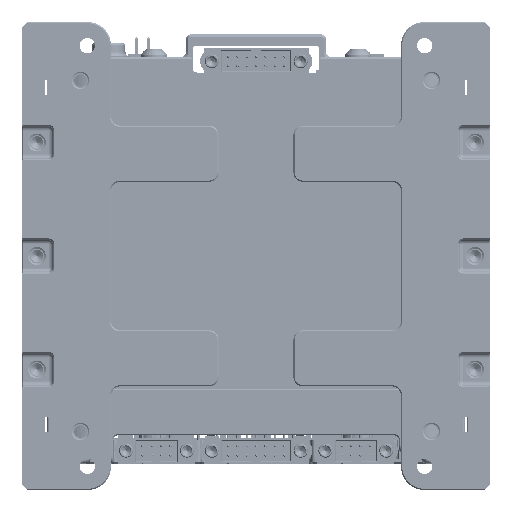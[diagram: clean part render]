
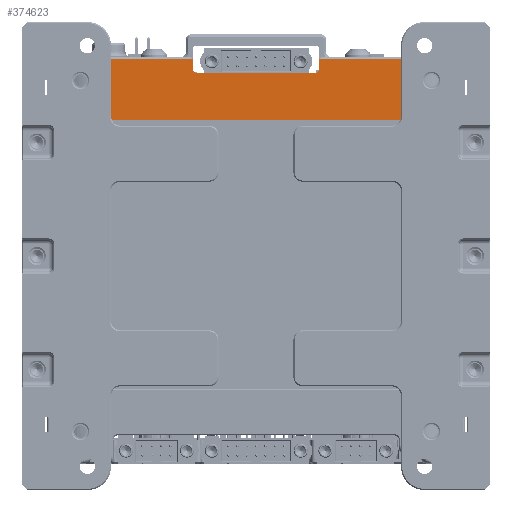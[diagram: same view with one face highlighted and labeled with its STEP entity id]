
A CAD part, left-side view. The second image highlights one B-rep face of the part: STEP entity #374623.
In plain terms, the highlighted planar face has unit normal (-1, 0, 0).
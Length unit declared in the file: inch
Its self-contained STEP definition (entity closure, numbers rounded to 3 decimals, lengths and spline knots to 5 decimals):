
#4908 = CARTESIAN_POINT ( 'NONE',  ( -4.28073, -1.36417, 0.23708 ) ) ;
#9906 = DIRECTION ( 'NONE',  ( 0., 1., 0. ) ) ;
#15910 = ORIENTED_EDGE ( 'NONE', *, *, #419023, .F. ) ;
#16358 = EDGE_CURVE ( 'NONE', #390400, #351510, #76897, .T. ) ;
#21092 = EDGE_CURVE ( 'NONE', #244668, #67279, #90600, .T. ) ;
#24571 = DIRECTION ( 'NONE',  ( 0., -1., 0. ) ) ;
#24925 = CARTESIAN_POINT ( 'NONE',  ( -4.28073, 1.36417, 0.23708 ) ) ;
#28509 = VERTEX_POINT ( 'NONE', #367182 ) ;
#29312 = CARTESIAN_POINT ( 'NONE',  ( -4.28073, -0.5315, 0.67015 ) ) ;
#29510 = LINE ( 'NONE', #388709, #219353 ) ;
#31132 = DIRECTION ( 'NONE',  ( 1., 0., 0. ) ) ;
#32323 = CARTESIAN_POINT ( 'NONE',  ( -4.28073, -1.4188, 0.8588 ) ) ;
#32404 = CARTESIAN_POINT ( 'NONE',  ( -4.28073, 1.4188, 0.8588 ) ) ;
#47409 = DIRECTION ( 'NONE',  ( 0., 0., 1. ) ) ;
#49880 = AXIS2_PLACEMENT_3D ( 'NONE', #452265, #238396, #24571 ) ;
#54139 = FACE_OUTER_BOUND ( 'NONE', #86351, .T. ) ;
#54353 = CARTESIAN_POINT ( 'NONE',  ( -4.28073, 0.5315, 0.67015 ) ) ;
#56393 = CARTESIAN_POINT ( 'NONE',  ( -4.28073, 1.26564, 0.75007 ) ) ;
#60420 = VERTEX_POINT ( 'NONE', #4908 ) ;
#63362 = CARTESIAN_POINT ( 'NONE',  ( -4.28073, -0.55118, 0.75007 ) ) ;
#64317 = EDGE_CURVE ( 'NONE', #60420, #253781, #390131, .T. ) ;
#67279 = VERTEX_POINT ( 'NONE', #54353 ) ;
#68279 = DIRECTION ( 'NONE',  ( 0., -1., 0. ) ) ;
#68352 = DIRECTION ( 'NONE',  ( 0., -1., 0. ) ) ;
#69376 = VECTOR ( 'NONE', #109236, 39.37008 ) ;
#76897 = LINE ( 'NONE', #416405, #255512 ) ;
#84917 = AXIS2_PLACEMENT_3D ( 'NONE', #384968, #171150, #420740 ) ;
#86351 = EDGE_LOOP ( 'NONE', ( #301790, #257076, #319514, #212500, #456436, #282113, #435737, #314391, #390307, #174696, #109842, #15910 ) ) ;
#88681 = VECTOR ( 'NONE', #455028, 39.37008 ) ;
#90600 = LINE ( 'NONE', #252849, #258024 ) ;
#97274 = CIRCLE ( 'NONE', #420019, 0.19495 ) ;
#97914 = EDGE_CURVE ( 'NONE', #309848, #311522, #29510, .T. ) ;
#98542 = EDGE_CURVE ( 'NONE', #285639, #309848, #453646, .T. ) ;
#103763 = CARTESIAN_POINT ( 'NONE',  ( -4.28073, -1.36417, 0.20952 ) ) ;
#109236 = DIRECTION ( 'NONE',  ( 0., 1., 0. ) ) ;
#109251 = CARTESIAN_POINT ( 'NONE',  ( -4.28073, 1.36417, 0.67166 ) ) ;
#109842 = ORIENTED_EDGE ( 'NONE', *, *, #97914, .T. ) ;
#120048 = CIRCLE ( 'NONE', #49880, 0.03937 ) ;
#132095 = CIRCLE ( 'NONE', #201737, 0.03937 ) ;
#137172 = LINE ( 'NONE', #186062, #315940 ) ;
#143701 = EDGE_CURVE ( 'NONE', #258606, #351510, #457125, .T. ) ;
#145795 = AXIS2_PLACEMENT_3D ( 'NONE', #32404, #282169, #68352 ) ;
#171150 = DIRECTION ( 'NONE',  ( 1., 0., 0. ) ) ;
#174696 = ORIENTED_EDGE ( 'NONE', *, *, #98542, .T. ) ;
#174883 = DIRECTION ( 'NONE',  ( 0., 0., -1. ) ) ;
#179374 = CARTESIAN_POINT ( 'NONE',  ( -4.28073, 1.25699, 0.75007 ) ) ;
#181109 = DIRECTION ( 'NONE',  ( 0., 0., -1. ) ) ;
#186062 = CARTESIAN_POINT ( 'NONE',  ( -4.28073, -0.49213, 0.63078 ) ) ;
#195360 = VERTEX_POINT ( 'NONE', #417953 ) ;
#201737 = AXIS2_PLACEMENT_3D ( 'NONE', #245000, #31132, #280935 ) ;
#212500 = ORIENTED_EDGE ( 'NONE', *, *, #16358, .F. ) ;
#219353 = VECTOR ( 'NONE', #174883, 39.37008 ) ;
#221840 = DIRECTION ( 'NONE',  ( 0., -1., 0. ) ) ;
#228869 = EDGE_CURVE ( 'NONE', #195360, #28509, #137172, .T. ) ;
#238396 = DIRECTION ( 'NONE',  ( 1., 0., 0. ) ) ;
#244668 = VERTEX_POINT ( 'NONE', #286426 ) ;
#245000 = CARTESIAN_POINT ( 'NONE',  ( -4.28073, -0.49213, 0.67015 ) ) ;
#252849 = CARTESIAN_POINT ( 'NONE',  ( -4.28073, 0.5315, 0.76976 ) ) ;
#253781 = VERTEX_POINT ( 'NONE', #308501 ) ;
#255512 = VECTOR ( 'NONE', #380649, 39.37008 ) ;
#257076 = ORIENTED_EDGE ( 'NONE', *, *, #354387, .T. ) ;
#258024 = VECTOR ( 'NONE', #181109, 39.37008 ) ;
#258606 = VERTEX_POINT ( 'NONE', #261888 ) ;
#259220 = LINE ( 'NONE', #56393, #69376 ) ;
#261888 = CARTESIAN_POINT ( 'NONE',  ( -4.28073, -1.25699, 0.75007 ) ) ;
#271973 = VECTOR ( 'NONE', #9906, 39.37008 ) ;
#280935 = DIRECTION ( 'NONE',  ( 0., -1., 0. ) ) ;
#282087 = DIRECTION ( 'NONE',  ( 1., 0., 0. ) ) ;
#282113 = ORIENTED_EDGE ( 'NONE', *, *, #228869, .F. ) ;
#282169 = DIRECTION ( 'NONE',  ( 1., 0., 0. ) ) ;
#285639 = VERTEX_POINT ( 'NONE', #179374 ) ;
#286426 = CARTESIAN_POINT ( 'NONE',  ( -4.28073, 0.5315, 0.75007 ) ) ;
#295227 = VECTOR ( 'NONE', #47409, 39.37008 ) ;
#301790 = ORIENTED_EDGE ( 'NONE', *, *, #64317, .T. ) ;
#308501 = CARTESIAN_POINT ( 'NONE',  ( -4.28073, -1.36417, 0.67166 ) ) ;
#309848 = VERTEX_POINT ( 'NONE', #109251 ) ;
#311522 = VERTEX_POINT ( 'NONE', #24925 ) ;
#314391 = ORIENTED_EDGE ( 'NONE', *, *, #21092, .F. ) ;
#315940 = VECTOR ( 'NONE', #221840, 39.37008 ) ;
#315958 = EDGE_CURVE ( 'NONE', #195360, #67279, #120048, .T. ) ;
#319514 = ORIENTED_EDGE ( 'NONE', *, *, #143701, .T. ) ;
#327783 = CARTESIAN_POINT ( 'NONE',  ( -4.28073, -0.5315, 0.75007 ) ) ;
#330056 = CARTESIAN_POINT ( 'NONE',  ( -4.28073, 1.75787, 0.23708 ) ) ;
#347501 = PLANE ( 'NONE',  #84917 ) ;
#351510 = VERTEX_POINT ( 'NONE', #327783 ) ;
#354387 = EDGE_CURVE ( 'NONE', #253781, #258606, #97274, .T. ) ;
#366989 = LINE ( 'NONE', #330056, #271973 ) ;
#367182 = CARTESIAN_POINT ( 'NONE',  ( -4.28073, -0.49213, 0.63078 ) ) ;
#367877 = EDGE_CURVE ( 'NONE', #244668, #285639, #259220, .T. ) ;
#374623 = ADVANCED_FACE ( 'NONE', ( #54139 ), #347501, .F. ) ;
#375712 = EDGE_CURVE ( 'NONE', #390400, #28509, #132095, .T. ) ;
#380649 = DIRECTION ( 'NONE',  ( 0., 0., 1. ) ) ;
#384968 = CARTESIAN_POINT ( 'NONE',  ( -4.28073, -1.75787, 0.20952 ) ) ;
#388709 = CARTESIAN_POINT ( 'NONE',  ( -4.28073, 1.36417, 0.20952 ) ) ;
#390131 = LINE ( 'NONE', #103763, #295227 ) ;
#390307 = ORIENTED_EDGE ( 'NONE', *, *, #367877, .T. ) ;
#390400 = VERTEX_POINT ( 'NONE', #29312 ) ;
#416405 = CARTESIAN_POINT ( 'NONE',  ( -4.28073, -0.5315, 0.76976 ) ) ;
#417953 = CARTESIAN_POINT ( 'NONE',  ( -4.28073, 0.49213, 0.63078 ) ) ;
#419023 = EDGE_CURVE ( 'NONE', #60420, #311522, #366989, .T. ) ;
#420019 = AXIS2_PLACEMENT_3D ( 'NONE', #32323, #282087, #68279 ) ;
#420740 = DIRECTION ( 'NONE',  ( 0., -1., 0. ) ) ;
#435737 = ORIENTED_EDGE ( 'NONE', *, *, #315958, .T. ) ;
#452265 = CARTESIAN_POINT ( 'NONE',  ( -4.28073, 0.49213, 0.67015 ) ) ;
#453646 = CIRCLE ( 'NONE', #145795, 0.19495 ) ;
#455028 = DIRECTION ( 'NONE',  ( 0., 1., 0. ) ) ;
#456436 = ORIENTED_EDGE ( 'NONE', *, *, #375712, .T. ) ;
#457125 = LINE ( 'NONE', #63362, #88681 ) ;
